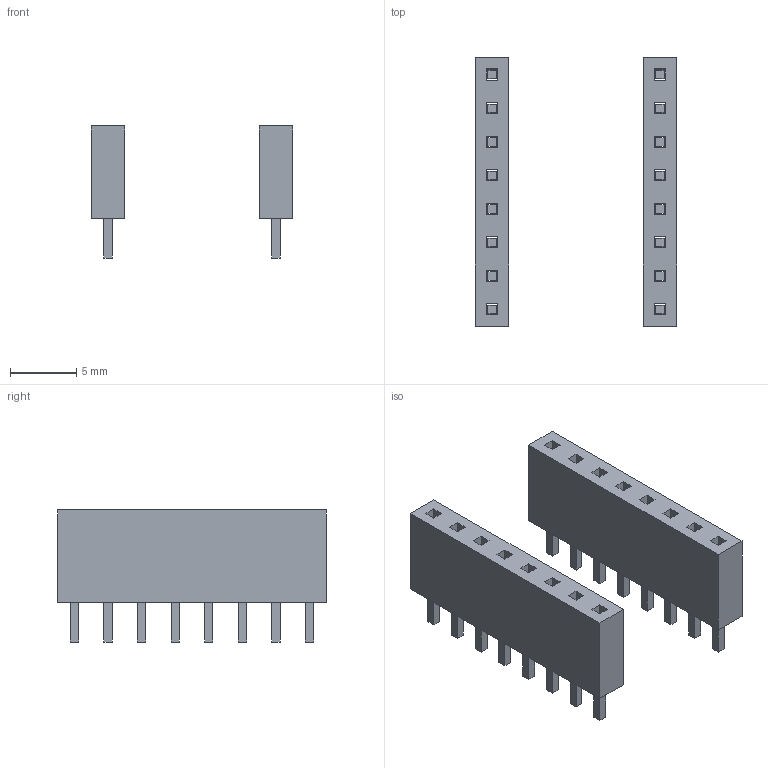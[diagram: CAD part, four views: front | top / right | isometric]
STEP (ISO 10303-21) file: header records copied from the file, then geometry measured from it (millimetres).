
FILE_DESCRIPTION(('Open CASCADE Model'),'2;1');
FILE_NAME('Open CASCADE Shape Model','2026-10-26T15:13:02',('Author'),( 'Open CASCADE'),'Open CASCADE STEP processor 7.8','Open CASCADE 7.8' ,'Unknown');
FILE_SCHEMA(('AUTOMOTIVE_DESIGN { 1 0 10303 214 1 1 1 1 }'));
Length unit declared in the file: millimetre
Products named in the file (19): SOQUETES_STEPSTICK_2X8; tail_-1_0; tail_-1_1; tail_-1_2; tail_-1_3; tail_-1_4; tail_-1_5; tail_-1_6; tail_-1_7; socket_-1; tail_1_0; tail_1_1; tail_1_2; tail_1_3; tail_1_4; tail_1_5; tail_1_6; tail_1_7; socket_1
Assembly tree (18 placements, depth 2):
  SOQUETES_STEPSTICK_2X8
    tail_-1_0
    tail_-1_1
    tail_-1_2
    tail_-1_3
    tail_-1_4
    tail_-1_5
    tail_-1_6
    tail_-1_7
    socket_-1
    tail_1_0
    tail_1_1
    tail_1_2
    tail_1_3
    tail_1_4
    tail_1_5
    tail_1_6
    tail_1_7
    socket_1
Bounding box: 15.24 x 20.32 x 10 mm (x, y, z)
Volume: 661.3 mm3; surface area: 1340.2 mm2
Topology: 18 solids, 18 shells, 172 faces, 408 edges, 272 vertices
Faces by surface type: plane 172
Entity records: 10538 total; most frequent: CARTESIAN_POINT 1815, DIRECTION 1478, LINE 1096, VECTOR 1096, ORIENTED_EDGE 816, PCURVE 816, DEFINITIONAL_REPRESENTATION 816, EDGE_CURVE 408
